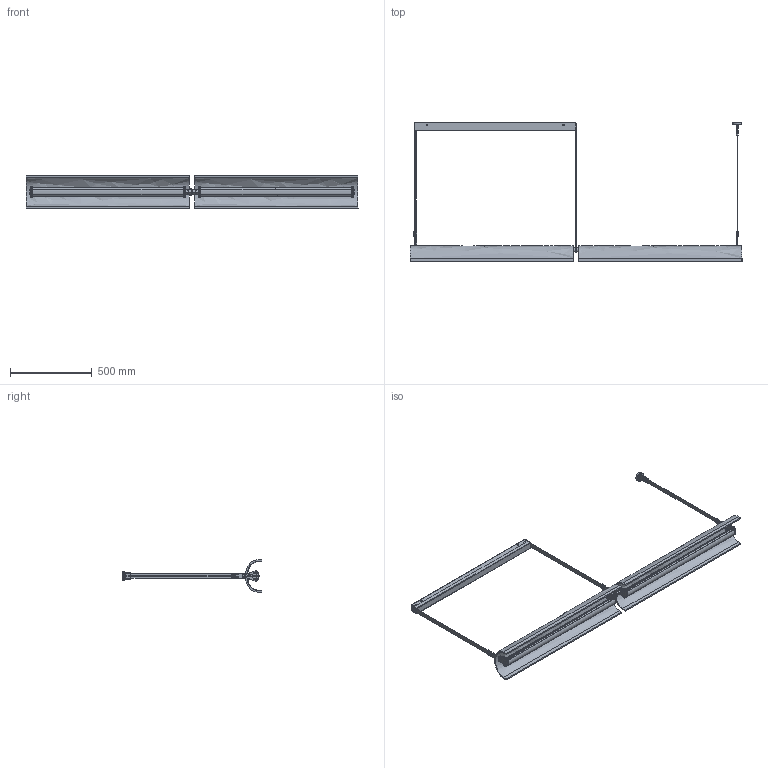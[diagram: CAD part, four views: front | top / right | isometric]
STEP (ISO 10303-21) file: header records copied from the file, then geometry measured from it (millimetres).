
FILE_DESCRIPTION (( 'STEP AP203' ), '1' );
FILE_NAME ('ALUET S-100-2L INDIRECT LIGHTING 1320321x322.STEP', '2023-04-18T14:42:54', ( '' ), ( '' ), 'SwSTEP 2.0', 'SolidWorks 2019', '' );
FILE_SCHEMA (( 'CONFIG_CONTROL_DESIGN' ));
Length unit declared in the file: millimetre
Products named in the file (48): 000-907-030; 000-D7991-420A2_D7991-410A2; 000-132-019; 000-132-020; 000-132-015_2; 000-132-986; 000-D7991-320 a2; 000-132-008; 000-132-027; 000-132-015; 000-132-003; 000-D912-416; 000-132-023; 000-132-029; 000-132-987; 000-132-985; 000-SUB132-002 SET ELEC 2L DIR_IND TWIN CON CABLE; 000-SUB132-003 SET ELEC 2L DIR_IND TWIN; 000-132-010; 000-D934-M5A2; 000-132-024; 000-D7991-314 a4; 000-132-011; 000-132-026; 000-132-002; 000-B1468_28_0; 000-132-007; 000-132-990; 000-132-022; 000-132-028; 000-D7380-36; 000-132-025; 000-132-018; 000-132-001; 000-D7991-410A2_D7991-410A2; 000-B1468_28_1; 000-D6798J-5.3A2; 000-D965-314; 000-132-009; ALUET S-100-2L INDIRECT LIGHTING 1320321x322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
Assembly tree (92 placements, depth 4):
  ALUET S-100-2L INDIRECT LIGHTING 1320321x322
    000-FLO132-002 DIR_IND TRIAC TWIN
      000-132-026
      000-132-015
        000-132-015
      000-132-015_2
        000-132-015
      000-D912-416
      000-132-027
      000-D965-410N  x4
    000-SUB132-002 SET ELEC 2L DIR_IND TWIN CON CABLE
      000-132-002
      000-132-003
      000-D7991-420A2_D7991-410A2
      000-D7991-320 a2  x2
      000-132-007
      000-132-009
      000-132-008
      000-907-030
      000-132-018
      000-132-019
      000-132-028
        000-132-021
        000-132-020  x2
      000-D7991-314 a4
      000-D965-314  x2
    000-132-986
      000-132-010
      000-132-011
      000-OJETE_WALDES  x2
      000-132-029
      000-B1468_28_0
    000-132-987
      000-132-010
      000-132-011
      000-OJETE_WALDES  x2
      000-132-012
      000-B1468_28_0
    000-132-990
      000-132-023  x2
    000-132-022  x2
    000-132-030  x2
    000-D7380-36  x4
    000-SUB132-003 SET ELEC 2L DIR_IND TWIN
      000-132-002
      000-132-003
      000-D7991-420A2_D7991-410A2  x2
      000-D7991-320 a2  x6
      000-D6798J-5.3A2
      000-D934-M5A2
      000-132-007
      000-132-009
      000-132-008
      000-132-018
      000-132-019
    000-D965-314  x2
    000-D7991-314 a4
    000-132-985
      000-132-010
      000-132-011
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Bounding box: 2032 x 853.86 x 199.28 mm (x, y, z)
Volume: 6351824.5 mm3; surface area: 2863194.8 mm2
Topology: 85 solids, 85 shells, 4299 faces, 11360 edges, 7246 vertices
Faces by surface type: cylinder 1714, plane 1690, bspline 655, cone 240
Entity records: 87757 total; most frequent: CARTESIAN_POINT 24970, ORIENTED_EDGE 12220, DIRECTION 11255, EDGE_CURVE 6110, AXIS2_PLACEMENT_3D 4034, VERTEX_POINT 3928, LINE 3187, VECTOR 3187
